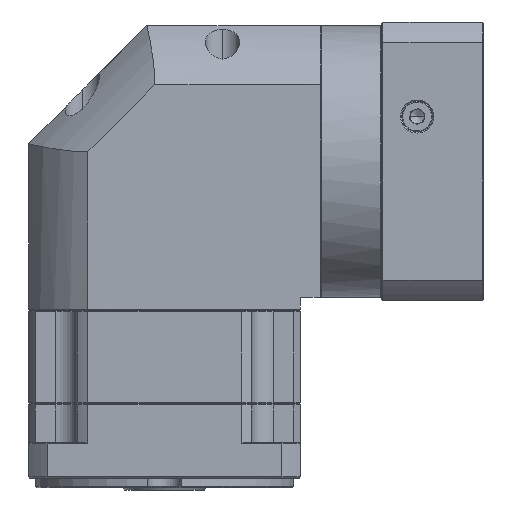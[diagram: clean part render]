
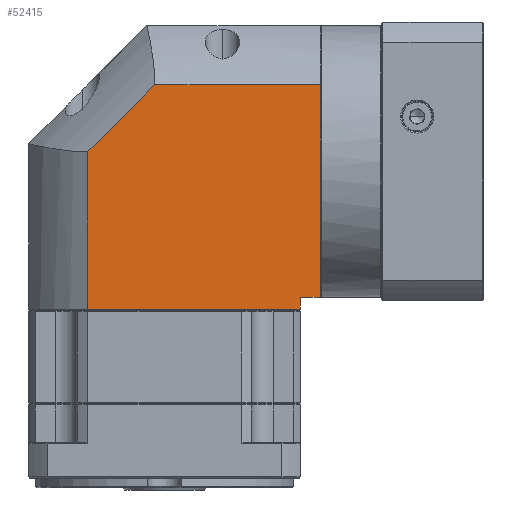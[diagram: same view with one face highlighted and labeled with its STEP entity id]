
A CAD part, front view. The second image highlights one B-rep face of the part: STEP entity #52415.
In plain terms, the highlighted planar face has unit normal (0, -1, 0).
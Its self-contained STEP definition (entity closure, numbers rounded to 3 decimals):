
#1043 = CARTESIAN_POINT ( 'NONE',  ( 5.136, 28.629, -41.368 ) ) ;
#1340 = CARTESIAN_POINT ( 'NONE',  ( 103.436, 28.629, 60.032 ) ) ;
#1409 = VERTEX_POINT ( 'NONE', #1340 ) ;
#2023 = ORIENTED_EDGE ( 'NONE', *, *, #111890, .F. ) ;
#2766 = VERTEX_POINT ( 'NONE', #114415 ) ;
#2801 = CARTESIAN_POINT ( 'NONE',  ( 33.474, 28.629, 60.032 ) ) ;
#3249 = ORIENTED_EDGE ( 'NONE', *, *, #63971, .F. ) ;
#3838 = CARTESIAN_POINT ( 'NONE',  ( -19.964, 28.629, -34.868 ) ) ;
#3839 = CARTESIAN_POINT ( 'NONE',  ( 95.036, 28.629, -41.368 ) ) ;
#4085 = LINE ( 'NONE', #3838, #56690 ) ;
#8210 = ORIENTED_EDGE ( 'NONE', *, *, #62630, .F. ) ;
#8465 = VECTOR ( 'NONE', #113315, 1000. ) ;
#9547 = VERTEX_POINT ( 'NONE', #126711 ) ;
#11394 = CARTESIAN_POINT ( 'NONE',  ( 5.136, 28.629, 31.694 ) ) ;
#13179 = DIRECTION ( 'NONE',  ( 0.707, 0., 0.707 ) ) ;
#13814 = LINE ( 'NONE', #124738, #91944 ) ;
#21926 = LINE ( 'NONE', #92247, #29840 ) ;
#23694 = EDGE_CURVE ( 'NONE', #57406, #31459, #39574, .T. ) ;
#29840 = VECTOR ( 'NONE', #41402, 1000. ) ;
#31130 = VERTEX_POINT ( 'NONE', #129003 ) ;
#31459 = VERTEX_POINT ( 'NONE', #2801 ) ;
#32165 = AXIS2_PLACEMENT_3D ( 'NONE', #38224, #46724, #97990 ) ;
#38083 = LINE ( 'NONE', #3839, #42969 ) ;
#38224 = CARTESIAN_POINT ( 'NONE',  ( -19.964, 28.629, -41.368 ) ) ;
#39574 = LINE ( 'NONE', #11394, #79518 ) ;
#41402 = DIRECTION ( 'NONE',  ( -1., 0., 0. ) ) ;
#42969 = VECTOR ( 'NONE', #106742, 1000. ) ;
#44083 = CARTESIAN_POINT ( 'NONE',  ( 103.436, 28.629, -41.368 ) ) ;
#44735 = CARTESIAN_POINT ( 'NONE',  ( 103.436, 28.629, -29.868 ) ) ;
#46724 = DIRECTION ( 'NONE',  ( 0., 1., 0. ) ) ;
#48389 = ORIENTED_EDGE ( 'NONE', *, *, #78312, .F. ) ;
#50448 = EDGE_CURVE ( 'NONE', #2766, #9547, #4085, .T. ) ;
#51676 = ORIENTED_EDGE ( 'NONE', *, *, #110416, .F. ) ;
#52415 = ADVANCED_FACE ( 'NONE', ( #130969 ), #128331, .F. ) ;
#56690 = VECTOR ( 'NONE', #105443, 1000. ) ;
#57406 = VERTEX_POINT ( 'NONE', #113850 ) ;
#62630 = EDGE_CURVE ( 'NONE', #31459, #1409, #13814, .T. ) ;
#63705 = DIRECTION ( 'NONE',  ( 1., 0., 0. ) ) ;
#63971 = EDGE_CURVE ( 'NONE', #108495, #31130, #21926, .T. ) ;
#78312 = EDGE_CURVE ( 'NONE', #1409, #108495, #112897, .T. ) ;
#79518 = VECTOR ( 'NONE', #13179, 1000. ) ;
#86576 = LINE ( 'NONE', #1043, #8465 ) ;
#89744 = ORIENTED_EDGE ( 'NONE', *, *, #50448, .F. ) ;
#91944 = VECTOR ( 'NONE', #63705, 1000. ) ;
#92247 = CARTESIAN_POINT ( 'NONE',  ( -19.964, 28.629, -29.868 ) ) ;
#94398 = EDGE_LOOP ( 'NONE', ( #2023, #3249, #48389, #8210, #108137, #51676, #89744 ) ) ;
#97990 = DIRECTION ( 'NONE',  ( 1., 0., 0. ) ) ;
#105443 = DIRECTION ( 'NONE',  ( -1., 0., 0. ) ) ;
#105645 = DIRECTION ( 'NONE',  ( 0., 0., -1. ) ) ;
#106742 = DIRECTION ( 'NONE',  ( 0., 0., -1. ) ) ;
#108137 = ORIENTED_EDGE ( 'NONE', *, *, #23694, .F. ) ;
#108495 = VERTEX_POINT ( 'NONE', #44735 ) ;
#110416 = EDGE_CURVE ( 'NONE', #9547, #57406, #86576, .T. ) ;
#111890 = EDGE_CURVE ( 'NONE', #31130, #2766, #38083, .T. ) ;
#112897 = LINE ( 'NONE', #44083, #122465 ) ;
#113315 = DIRECTION ( 'NONE',  ( 0., 0., 1. ) ) ;
#113850 = CARTESIAN_POINT ( 'NONE',  ( 5.136, 28.629, 31.694 ) ) ;
#114415 = CARTESIAN_POINT ( 'NONE',  ( 95.036, 28.629, -34.868 ) ) ;
#122465 = VECTOR ( 'NONE', #105645, 1000. ) ;
#124738 = CARTESIAN_POINT ( 'NONE',  ( -19.964, 28.629, 60.032 ) ) ;
#126711 = CARTESIAN_POINT ( 'NONE',  ( 5.136, 28.629, -34.868 ) ) ;
#128331 = PLANE ( 'NONE',  #32165 ) ;
#129003 = CARTESIAN_POINT ( 'NONE',  ( 95.036, 28.629, -29.868 ) ) ;
#130969 = FACE_OUTER_BOUND ( 'NONE', #94398, .T. ) ;
